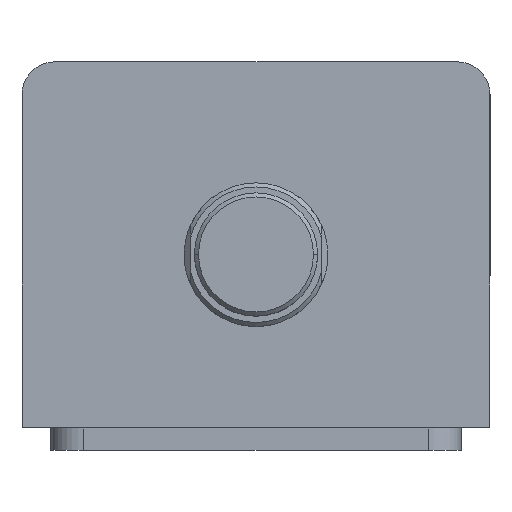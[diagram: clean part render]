
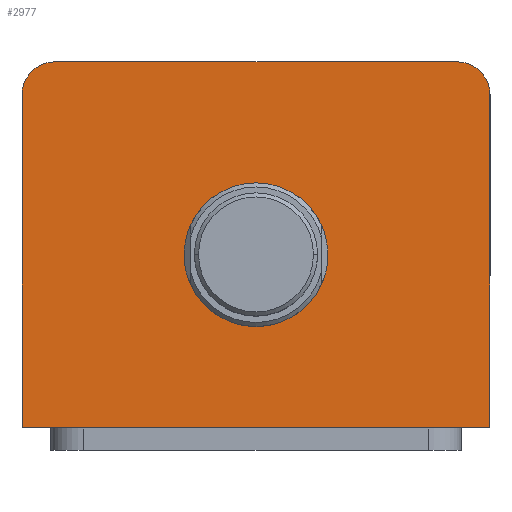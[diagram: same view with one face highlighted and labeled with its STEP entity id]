
A CAD part, top view. The second image highlights one B-rep face of the part: STEP entity #2977.
In plain terms, the highlighted planar face has unit normal (0, 0, 1).
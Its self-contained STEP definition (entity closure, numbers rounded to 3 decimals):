
#43 = DIRECTION ( 'NONE',  ( 1., 0., 0. ) ) ;
#44 = DIRECTION ( 'NONE',  ( 0., 0., 1. ) ) ;
#49 = CARTESIAN_POINT ( 'NONE',  ( 0., 0., 92. ) ) ;
#52 = PLANE ( 'NONE',  #347 ) ;
#176 = EDGE_CURVE ( 'NONE', #2379, #2521, #1693, .T. ) ;
#183 = EDGE_CURVE ( 'NONE', #2521, #2300, #1684, .T. ) ;
#347 = AXIS2_PLACEMENT_3D ( 'NONE', #49, #44, #43 ) ;
#486 = CIRCLE ( 'NONE', #1110, 8. ) ;
#530 = DIRECTION ( 'NONE',  ( 0., 1., 0. ) ) ;
#533 = CARTESIAN_POINT ( 'NONE',  ( 57., 44.5, 92. ) ) ;
#597 = DIRECTION ( 'NONE',  ( -1., 0., 0. ) ) ;
#600 = CARTESIAN_POINT ( 'NONE',  ( -57., 44.5, 92. ) ) ;
#621 = DIRECTION ( 'NONE',  ( 1., 0., 0. ) ) ;
#641 = DIRECTION ( 'NONE',  ( 1., 0., 0. ) ) ;
#642 = DIRECTION ( 'NONE',  ( 0., 0., 1. ) ) ;
#643 = CARTESIAN_POINT ( 'NONE',  ( 0., -2.5, 92. ) ) ;
#648 = CARTESIAN_POINT ( 'NONE',  ( -57., -44.5, 92. ) ) ;
#656 = DIRECTION ( 'NONE',  ( 1., 0., 0. ) ) ;
#657 = DIRECTION ( 'NONE',  ( 0., 0., 1. ) ) ;
#663 = CARTESIAN_POINT ( 'NONE',  ( 0., -2.5, 92. ) ) ;
#1082 = AXIS2_PLACEMENT_3D ( 'NONE', #1183, #1181, #1180 ) ;
#1110 = AXIS2_PLACEMENT_3D ( 'NONE', #2982, #2932, #2975 ) ;
#1167 = CARTESIAN_POINT ( 'NONE',  ( -57., 44.5, 92. ) ) ;
#1169 = DIRECTION ( 'NONE',  ( 0., -1., 0. ) ) ;
#1180 = DIRECTION ( 'NONE',  ( 1., 0., 0. ) ) ;
#1181 = DIRECTION ( 'NONE',  ( 0., 0., 1. ) ) ;
#1183 = CARTESIAN_POINT ( 'NONE',  ( -49., 36.5, 92. ) ) ;
#1301 = VECTOR ( 'NONE', #597, 1000. ) ;
#1306 = LINE ( 'NONE', #600, #1301 ) ;
#1308 = EDGE_CURVE ( 'NONE', #2299, #2385, #1473, .T. ) ;
#1313 = VECTOR ( 'NONE', #621, 1000. ) ;
#1322 = LINE ( 'NONE', #648, #1313 ) ;
#1324 = EDGE_CURVE ( 'NONE', #2385, #2299, #1327, .T. ) ;
#1327 = CIRCLE ( 'NONE', #2123, 17.5 ) ;
#1334 = EDGE_CURVE ( 'NONE', #2300, #2390, #1322, .T. ) ;
#1473 = CIRCLE ( 'NONE', #2116, 17.5 ) ;
#1679 = VECTOR ( 'NONE', #1169, 1000. ) ;
#1684 = LINE ( 'NONE', #1167, #1679 ) ;
#1693 = CIRCLE ( 'NONE', #1082, 8. ) ;
#2001 = EDGE_CURVE ( 'NONE', #2301, #2379, #1306, .T. ) ;
#2031 = EDGE_CURVE ( 'NONE', #2390, #2409, #2154, .T. ) ;
#2039 = EDGE_CURVE ( 'NONE', #2409, #2301, #486, .T. ) ;
#2116 = AXIS2_PLACEMENT_3D ( 'NONE', #663, #657, #656 ) ;
#2123 = AXIS2_PLACEMENT_3D ( 'NONE', #643, #642, #641 ) ;
#2153 = VECTOR ( 'NONE', #530, 1000. ) ;
#2154 = LINE ( 'NONE', #533, #2153 ) ;
#2184 = ORIENTED_EDGE ( 'NONE', *, *, #2031, .T. ) ;
#2187 = ORIENTED_EDGE ( 'NONE', *, *, #176, .T. ) ;
#2196 = ORIENTED_EDGE ( 'NONE', *, *, #183, .T. ) ;
#2201 = ORIENTED_EDGE ( 'NONE', *, *, #1334, .T. ) ;
#2230 = ORIENTED_EDGE ( 'NONE', *, *, #2001, .T. ) ;
#2238 = ORIENTED_EDGE ( 'NONE', *, *, #2039, .T. ) ;
#2262 = ORIENTED_EDGE ( 'NONE', *, *, #1324, .F. ) ;
#2265 = ORIENTED_EDGE ( 'NONE', *, *, #1308, .F. ) ;
#2299 = VERTEX_POINT ( 'NONE', #2850 ) ;
#2300 = VERTEX_POINT ( 'NONE', #2848 ) ;
#2301 = VERTEX_POINT ( 'NONE', #2846 ) ;
#2317 = EDGE_LOOP ( 'NONE', ( #2262, #2265 ) ) ;
#2355 = EDGE_LOOP ( 'NONE', ( #2230, #2187, #2196, #2201, #2184, #2238 ) ) ;
#2379 = VERTEX_POINT ( 'NONE', #2823 ) ;
#2385 = VERTEX_POINT ( 'NONE', #2813 ) ;
#2390 = VERTEX_POINT ( 'NONE', #2807 ) ;
#2409 = VERTEX_POINT ( 'NONE', #2792 ) ;
#2521 = VERTEX_POINT ( 'NONE', #3173 ) ;
#2792 = CARTESIAN_POINT ( 'NONE',  ( 57., 36.5, 92. ) ) ;
#2807 = CARTESIAN_POINT ( 'NONE',  ( 57., -44.5, 92. ) ) ;
#2813 = CARTESIAN_POINT ( 'NONE',  ( 17.5, -2.5, 92. ) ) ;
#2823 = CARTESIAN_POINT ( 'NONE',  ( -49., 44.5, 92. ) ) ;
#2846 = CARTESIAN_POINT ( 'NONE',  ( 49., 44.5, 92. ) ) ;
#2848 = CARTESIAN_POINT ( 'NONE',  ( -57., -44.5, 92. ) ) ;
#2850 = CARTESIAN_POINT ( 'NONE',  ( -17.5, -2.5, 92. ) ) ;
#2932 = DIRECTION ( 'NONE',  ( 0., 0., 1. ) ) ;
#2975 = DIRECTION ( 'NONE',  ( 1., 0., 0. ) ) ;
#2977 = ADVANCED_FACE ( 'NONE', ( #3282, #3291 ), #52, .T. ) ;
#2982 = CARTESIAN_POINT ( 'NONE',  ( 49., 36.5, 92. ) ) ;
#3173 = CARTESIAN_POINT ( 'NONE',  ( -57., 36.5, 92. ) ) ;
#3282 = FACE_BOUND ( 'NONE', #2317, .T. ) ;
#3291 = FACE_OUTER_BOUND ( 'NONE', #2355, .T. ) ;
